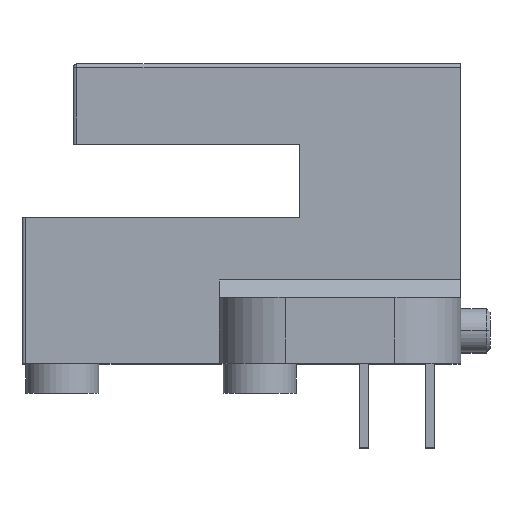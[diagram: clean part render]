
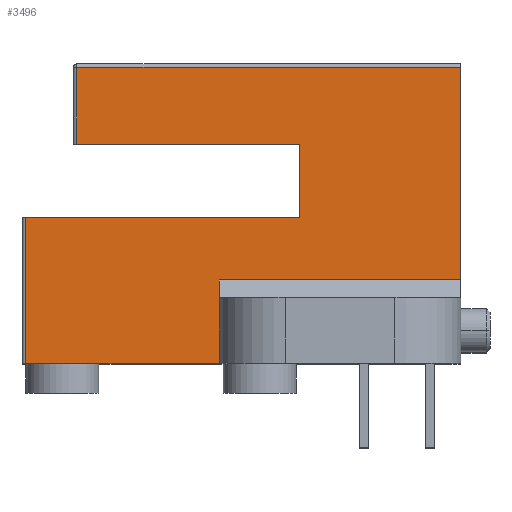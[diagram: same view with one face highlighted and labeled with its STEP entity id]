
A CAD part, top view. The second image highlights one B-rep face of the part: STEP entity #3496.
In plain terms, the highlighted planar face has unit normal (0, 0, 1).
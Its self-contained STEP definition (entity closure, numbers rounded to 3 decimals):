
#6 = LINE ( 'NONE', #1200, #3360 ) ;
#65 = CARTESIAN_POINT ( 'NONE',  ( -6.135, -12.023, 3.549 ) ) ;
#76 = VERTEX_POINT ( 'NONE', #2446 ) ;
#85 = CARTESIAN_POINT ( 'NONE',  ( 0.465, -6.173, 3.549 ) ) ;
#114 = EDGE_CURVE ( 'NONE', #1859, #2038, #2110, .T. ) ;
#167 = DIRECTION ( 'NONE',  ( 0., 1., 0. ) ) ;
#174 = VECTOR ( 'NONE', #1822, 1000. ) ;
#285 = ORIENTED_EDGE ( 'NONE', *, *, #987, .T. ) ;
#368 = EDGE_CURVE ( 'NONE', #1611, #3477, #2839, .T. ) ;
#383 = DIRECTION ( 'NONE',  ( 1., 0., 0. ) ) ;
#403 = LINE ( 'NONE', #4874, #4401 ) ;
#496 = DIRECTION ( 'NONE',  ( 0., 0., 1. ) ) ;
#725 = VECTOR ( 'NONE', #383, 1000. ) ;
#747 = CARTESIAN_POINT ( 'NONE',  ( -10.035, -8.273, 3.549 ) ) ;
#917 = ORIENTED_EDGE ( 'NONE', *, *, #1091, .T. ) ;
#987 = EDGE_CURVE ( 'NONE', #3477, #2715, #6, .T. ) ;
#1000 = EDGE_CURVE ( 'NONE', #1199, #2743, #1981, .T. ) ;
#1055 = DIRECTION ( 'NONE',  ( 1., 0., 0. ) ) ;
#1066 = EDGE_LOOP ( 'NONE', ( #285, #1722, #3154, #3370, #917, #2005, #1839, #3763, #4764, #2714, #2860 ) ) ;
#1083 = CARTESIAN_POINT ( 'NONE',  ( -11.435, -10.273, 3.549 ) ) ;
#1091 = EDGE_CURVE ( 'NONE', #2743, #1859, #4891, .T. ) ;
#1199 = VERTEX_POINT ( 'NONE', #2218 ) ;
#1200 = CARTESIAN_POINT ( 'NONE',  ( -10.035, -6.173, 3.549 ) ) ;
#1335 = CARTESIAN_POINT ( 'NONE',  ( -11.435, -14.273, 3.549 ) ) ;
#1339 = CARTESIAN_POINT ( 'NONE',  ( -3.935, -8.273, 3.549 ) ) ;
#1363 = VECTOR ( 'NONE', #4150, 1000. ) ;
#1432 = EDGE_CURVE ( 'NONE', #3854, #1199, #2880, .T. ) ;
#1437 = DIRECTION ( 'NONE',  ( 0., -1., 0. ) ) ;
#1521 = CARTESIAN_POINT ( 'NONE',  ( 0.465, -6.173, 3.549 ) ) ;
#1569 = CARTESIAN_POINT ( 'NONE',  ( -6.135, -11.973, 3.549 ) ) ;
#1603 = DIRECTION ( 'NONE',  ( -1., 0., 0. ) ) ;
#1611 = VERTEX_POINT ( 'NONE', #1521 ) ;
#1631 = EDGE_CURVE ( 'NONE', #3426, #76, #3806, .T. ) ;
#1636 = CARTESIAN_POINT ( 'NONE',  ( -10.035, -8.273, 3.549 ) ) ;
#1662 = CARTESIAN_POINT ( 'NONE',  ( -10.035, -6.173, 3.549 ) ) ;
#1690 = FACE_OUTER_BOUND ( 'NONE', #1066, .T. ) ;
#1722 = ORIENTED_EDGE ( 'NONE', *, *, #1939, .T. ) ;
#1822 = DIRECTION ( 'NONE',  ( 1., 0., 0. ) ) ;
#1839 = ORIENTED_EDGE ( 'NONE', *, *, #3530, .T. ) ;
#1859 = VERTEX_POINT ( 'NONE', #1335 ) ;
#1939 = EDGE_CURVE ( 'NONE', #2715, #3854, #2756, .T. ) ;
#1981 = LINE ( 'NONE', #4495, #2570 ) ;
#2005 = ORIENTED_EDGE ( 'NONE', *, *, #114, .T. ) ;
#2038 = VERTEX_POINT ( 'NONE', #2131 ) ;
#2042 = LINE ( 'NONE', #3547, #2075 ) ;
#2075 = VECTOR ( 'NONE', #167, 1000. ) ;
#2110 = LINE ( 'NONE', #2506, #174 ) ;
#2131 = CARTESIAN_POINT ( 'NONE',  ( -6.135, -14.273, 3.549 ) ) ;
#2218 = CARTESIAN_POINT ( 'NONE',  ( -3.935, -10.273, 3.549 ) ) ;
#2287 = CARTESIAN_POINT ( 'NONE',  ( -6.135, -14.273, 3.549 ) ) ;
#2350 = VECTOR ( 'NONE', #1603, 1000. ) ;
#2436 = PLANE ( 'NONE',  #3490 ) ;
#2446 = CARTESIAN_POINT ( 'NONE',  ( 0.465, -11.973, 3.549 ) ) ;
#2506 = CARTESIAN_POINT ( 'NONE',  ( -11.435, -14.273, 3.549 ) ) ;
#2570 = VECTOR ( 'NONE', #3114, 1000. ) ;
#2577 = VECTOR ( 'NONE', #1437, 1000. ) ;
#2642 = LINE ( 'NONE', #2287, #4654 ) ;
#2714 = ORIENTED_EDGE ( 'NONE', *, *, #3075, .T. ) ;
#2715 = VERTEX_POINT ( 'NONE', #747 ) ;
#2723 = EDGE_CURVE ( 'NONE', #4557, #3426, #403, .T. ) ;
#2743 = VERTEX_POINT ( 'NONE', #1083 ) ;
#2756 = LINE ( 'NONE', #1636, #4758 ) ;
#2839 = LINE ( 'NONE', #85, #2350 ) ;
#2860 = ORIENTED_EDGE ( 'NONE', *, *, #368, .T. ) ;
#2880 = LINE ( 'NONE', #1339, #2577 ) ;
#2906 = DIRECTION ( 'NONE',  ( 1., 0., 0. ) ) ;
#3068 = DIRECTION ( 'NONE',  ( 0., -1., 0. ) ) ;
#3075 = EDGE_CURVE ( 'NONE', #76, #1611, #2042, .T. ) ;
#3114 = DIRECTION ( 'NONE',  ( -1., 0., 0. ) ) ;
#3154 = ORIENTED_EDGE ( 'NONE', *, *, #1432, .T. ) ;
#3199 = CARTESIAN_POINT ( 'NONE',  ( -3.935, -8.273, 3.549 ) ) ;
#3287 = CARTESIAN_POINT ( 'NONE',  ( -6.135, -11.973, 3.549 ) ) ;
#3360 = VECTOR ( 'NONE', #3068, 1000. ) ;
#3363 = DIRECTION ( 'NONE',  ( 0., 1., 0. ) ) ;
#3370 = ORIENTED_EDGE ( 'NONE', *, *, #1000, .T. ) ;
#3426 = VERTEX_POINT ( 'NONE', #3287 ) ;
#3477 = VERTEX_POINT ( 'NONE', #1662 ) ;
#3490 = AXIS2_PLACEMENT_3D ( 'NONE', #4761, #496, #2906 ) ;
#3496 = ADVANCED_FACE ( 'NONE', ( #1690 ), #2436, .T. ) ;
#3530 = EDGE_CURVE ( 'NONE', #2038, #4557, #2642, .T. ) ;
#3547 = CARTESIAN_POINT ( 'NONE',  ( 0.465, -11.973, 3.549 ) ) ;
#3763 = ORIENTED_EDGE ( 'NONE', *, *, #2723, .T. ) ;
#3806 = LINE ( 'NONE', #1569, #725 ) ;
#3854 = VERTEX_POINT ( 'NONE', #3199 ) ;
#4150 = DIRECTION ( 'NONE',  ( 0., -1., 0. ) ) ;
#4183 = DIRECTION ( 'NONE',  ( 0., 1., 0. ) ) ;
#4401 = VECTOR ( 'NONE', #4183, 1000. ) ;
#4495 = CARTESIAN_POINT ( 'NONE',  ( -3.935, -10.273, 3.549 ) ) ;
#4529 = CARTESIAN_POINT ( 'NONE',  ( -11.435, -10.273, 3.549 ) ) ;
#4557 = VERTEX_POINT ( 'NONE', #65 ) ;
#4654 = VECTOR ( 'NONE', #3363, 1000. ) ;
#4758 = VECTOR ( 'NONE', #1055, 1000. ) ;
#4761 = CARTESIAN_POINT ( 'NONE',  ( 0., 0., 3.549 ) ) ;
#4764 = ORIENTED_EDGE ( 'NONE', *, *, #1631, .T. ) ;
#4874 = CARTESIAN_POINT ( 'NONE',  ( -6.135, -14.273, 3.549 ) ) ;
#4891 = LINE ( 'NONE', #4529, #1363 ) ;
